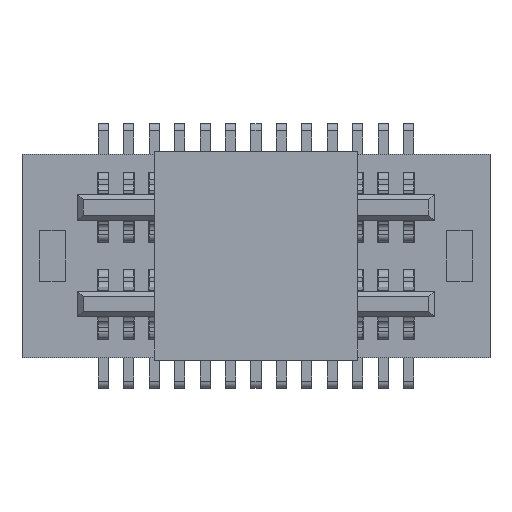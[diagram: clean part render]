
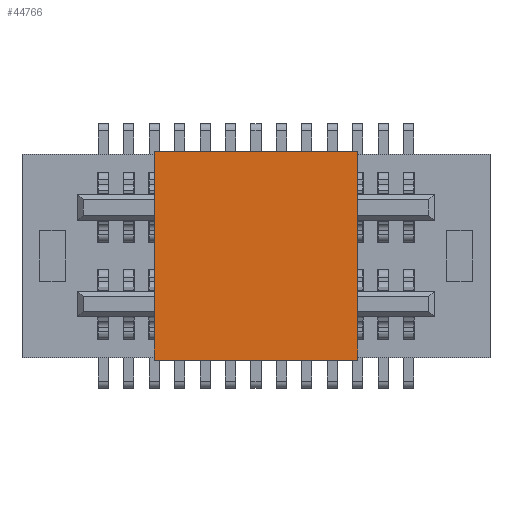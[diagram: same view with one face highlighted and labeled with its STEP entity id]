
A CAD part, top view. The second image highlights one B-rep face of the part: STEP entity #44766.
In plain terms, the highlighted planar face has unit normal (0, 0, 1).
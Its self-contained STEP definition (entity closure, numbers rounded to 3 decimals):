
#44714=CARTESIAN_POINT('Vertex',(-2.,2.05,2.85)) ;
#44717=CARTESIAN_POINT('Line Origine',(0.,2.05,2.85)) ;
#44721=CARTESIAN_POINT('Vertex',(2.,2.05,2.85)) ;
#44736=CARTESIAN_POINT('Axis2P3D Location',(0.,-2.05,2.85)) ;
#44741=CARTESIAN_POINT('Line Origine',(-2.,0.,2.85)) ;
#44745=CARTESIAN_POINT('Vertex',(-2.,-2.05,2.85)) ;
#44748=CARTESIAN_POINT('Line Origine',(0.,-2.05,2.85)) ;
#44752=CARTESIAN_POINT('Vertex',(2.,-2.05,2.85)) ;
#44755=CARTESIAN_POINT('Line Origine',(2.,0.,2.85)) ;
#44718=DIRECTION('Vector Direction',(1.,0.,0.)) ;
#44737=DIRECTION('Axis2P3D Direction',(0.,0.,-1.)) ;
#44738=DIRECTION('Axis2P3D XDirection',(0.,1.,0.)) ;
#44742=DIRECTION('Vector Direction',(0.,1.,0.)) ;
#44749=DIRECTION('Vector Direction',(1.,0.,0.)) ;
#44756=DIRECTION('Vector Direction',(0.,1.,0.)) ;
#44739=AXIS2_PLACEMENT_3D('Plane Axis2P3D',#44736,#44737,#44738) ;
#44761=ORIENTED_EDGE('',*,*,#44723,.F.) ;
#44762=ORIENTED_EDGE('',*,*,#44747,.T.) ;
#44763=ORIENTED_EDGE('',*,*,#44754,.T.) ;
#44764=ORIENTED_EDGE('',*,*,#44759,.F.) ;
#44719=VECTOR('Line Direction',#44718,1.) ;
#44743=VECTOR('Line Direction',#44742,1.) ;
#44750=VECTOR('Line Direction',#44749,1.) ;
#44757=VECTOR('Line Direction',#44756,1.) ;
#44766=ADVANCED_FACE('\X2\76D65B50\X0\',(#44765),#44740,.F.) ;
#44723=EDGE_CURVE('',#44715,#44722,#44720,.T.) ;
#44747=EDGE_CURVE('',#44715,#44746,#44744,.F.) ;
#44754=EDGE_CURVE('',#44746,#44753,#44751,.T.) ;
#44759=EDGE_CURVE('',#44722,#44753,#44758,.F.) ;
#44760=EDGE_LOOP('',(#44761,#44762,#44763,#44764)) ;
#44765=FACE_OUTER_BOUND('',#44760,.T.) ;
#44720=LINE('Line',#44717,#44719) ;
#44744=LINE('Line',#44741,#44743) ;
#44751=LINE('Line',#44748,#44750) ;
#44758=LINE('Line',#44755,#44757) ;
#44740=PLANE('Plane',#44739) ;
#44715=VERTEX_POINT('',#44714) ;
#44722=VERTEX_POINT('',#44721) ;
#44746=VERTEX_POINT('',#44745) ;
#44753=VERTEX_POINT('',#44752) ;
